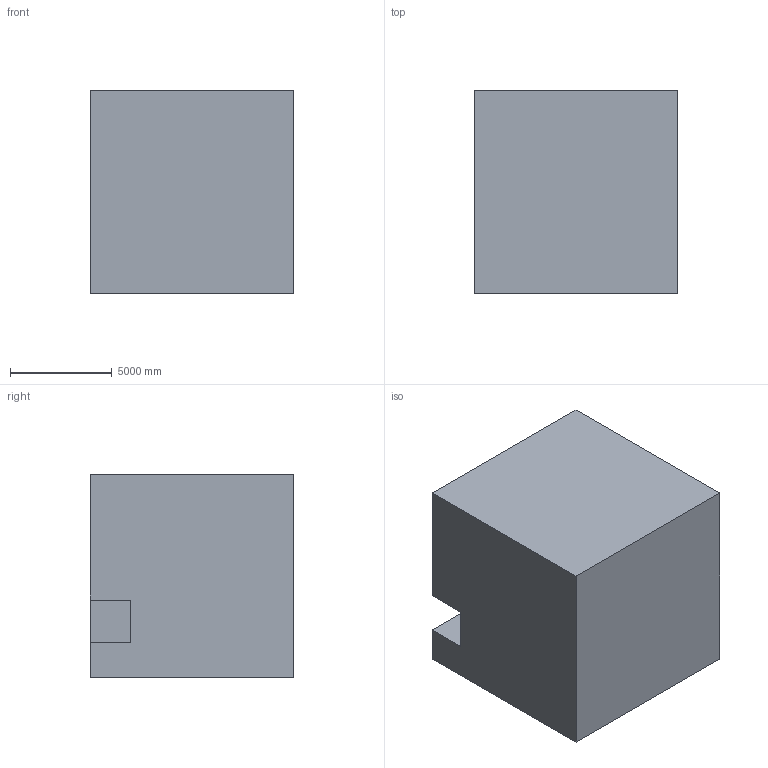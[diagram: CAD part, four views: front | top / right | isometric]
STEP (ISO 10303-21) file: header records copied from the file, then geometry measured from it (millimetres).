
FILE_DESCRIPTION (( 'STEP AP203' ), '1' );
FILE_NAME ('31.STEP', '2022-08-31T11:13:21', ( 'user' ), ( '' ), 'SwSTEP 2.0', 'SolidWorks 2021', '' );
FILE_SCHEMA (( 'CONFIG_CONTROL_DESIGN' ));
Length unit declared in the file: centimetre
Products named in the file (1): 31
Bounding box: 10000 x 10000 x 10000 mm (x, y, z)
Volume: 935621806635 mm3; surface area: 656959211.3 mm2
Topology: 1 solids, 1 shells, 15 faces, 39 edges, 26 vertices
Faces by surface type: plane 13, cylinder 2
Entity records: 534 total; most frequent: CARTESIAN_POINT 81, ORIENTED_EDGE 78, DIRECTION 75, EDGE_CURVE 39, VECTOR 35, LINE 35, VERTEX_POINT 26, AXIS2_PLACEMENT_3D 20
